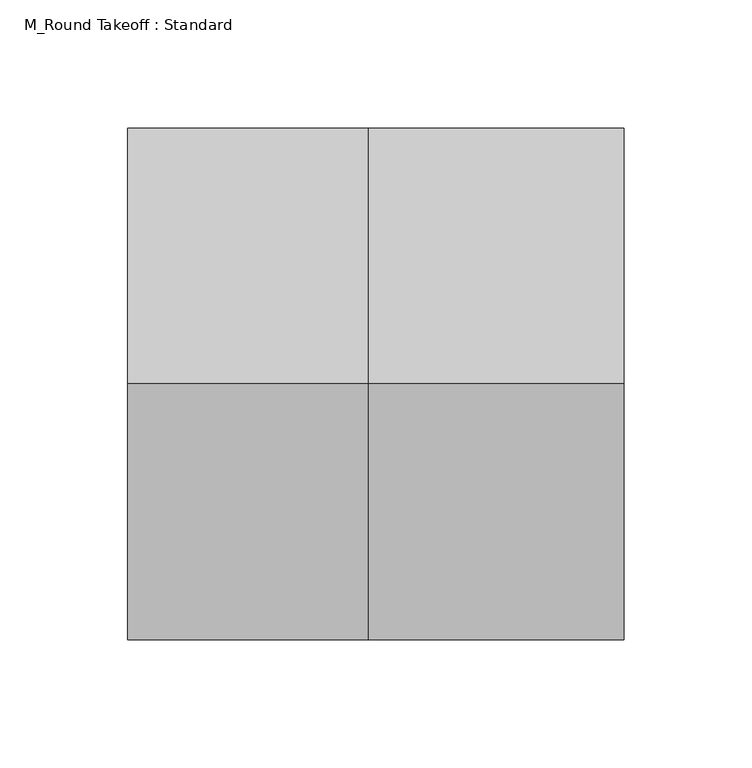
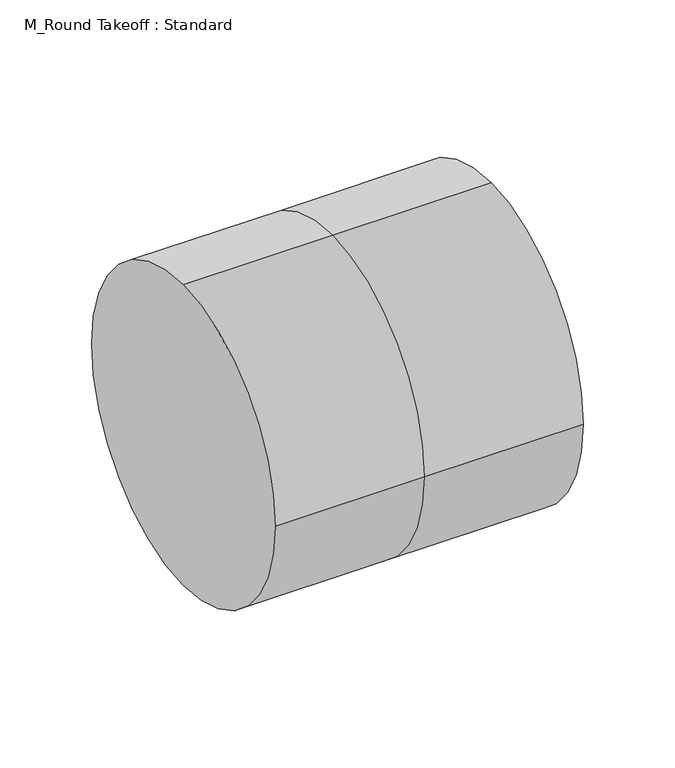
"""IFC4 building model written with IfcOpenShell, lengths in millimetres: duct fitting geometry, M_Round Takeoff : Standard."""

from ifc_helpers import new_model, si_unit, frame, origin, place, context, project, spatial, circle_curve, source, transform, mapped, element, save
from ifc_brep_helpers import plane_surface, cylinder_surface, advanced_brep


def m_round_takeoff_standard_c62ca294(model_context):
    return source(origin(), model_context, "Body", "AdvancedBrep", [
        advanced_brep(
        [(-93.904, 0.0, 100.0), (-93.904, 100.0, 0.0), (-93.904, 0.0, -100.0), (-93.904, -100.0, 0.0), (0.0, -100.0, 0.0), (0.0, 0.0, 100.0), (0.0, 0.0, -100.0), (0.0, 100.0, 0.0), (100.0, 0.0, 100.0), (100.0, -100.0, 0.0), (100.0, 0.0, -100.0), (100.0, 100.0, 0.0)],
        [
            (0, 1, circle_curve(frame((-93.904, 0.0, 0.0), z_axis=(-1.0, 0.0, 0.0), x_axis=(0.0, -1.0, 0.0)), 100.0)),
            (1, 2, circle_curve(frame((-93.904, 0.0, 0.0), z_axis=(-1.0, 0.0, 0.0), x_axis=(0.0, -1.0, 0.0)), 100.0)),
            (2, 3, circle_curve(frame((-93.904, 0.0, 0.0), z_axis=(-1.0, 0.0, 0.0), x_axis=(0.0, -1.0, 0.0)), 100.0)),
            (3, 0, circle_curve(frame((-93.904, 0.0, 0.0), z_axis=(-1.0, 0.0, 0.0), x_axis=(0.0, -1.0, 0.0)), 100.0)),
            (3, 4),
            (4, 5, circle_curve(frame((0.0, 0.0, 0.0), z_axis=(-1.0, 0.0, 0.0), x_axis=(0.0, -1.0, 0.0)), 100.0)),
            (5, 0),
            (2, 6),
            (6, 4, circle_curve(frame((0.0, 0.0, 0.0), z_axis=(-1.0, 0.0, 0.0), x_axis=(0.0, -1.0, 0.0)), 100.0)),
            (1, 7),
            (7, 6, circle_curve(frame((0.0, 0.0, 0.0), z_axis=(-1.0, 0.0, 0.0), x_axis=(0.0, -1.0, 0.0)), 100.0)),
            (5, 7, circle_curve(frame((0.0, 0.0, 0.0), z_axis=(-1.0, 0.0, 0.0), x_axis=(0.0, -1.0, 0.0)), 100.0)),
            (8, 9, circle_curve(frame((100.0, 0.0, 0.0), z_axis=(1.0, 0.0, 0.0), x_axis=(0.0, -1.0, 0.0)), 100.0)),
            (9, 10, circle_curve(frame((100.0, 0.0, 0.0), z_axis=(1.0, 0.0, 0.0), x_axis=(0.0, -1.0, 0.0)), 100.0)),
            (10, 11, circle_curve(frame((100.0, 0.0, 0.0), z_axis=(1.0, 0.0, 0.0), x_axis=(0.0, -1.0, 0.0)), 100.0)),
            (11, 8, circle_curve(frame((100.0, 0.0, 0.0), z_axis=(1.0, 0.0, 0.0), x_axis=(0.0, -1.0, 0.0)), 100.0)),
            (8, 5),
            (4, 9),
            (6, 10),
            (7, 11),
        ],
        [
            plane_surface(frame((-93.904, 0.0, 0.0), z_axis=(-1.0, 0.0, 0.0), x_axis=(0.0, 0.0, 1.0))),
            cylinder_surface(frame((-93.904, 0.0, 0.0), z_axis=(-1.0, 0.0, 0.0), x_axis=(0.0, -1.0, 0.0)), 100.0),
            plane_surface(frame((100.0, 0.0, 0.0), z_axis=(1.0, 0.0, 0.0), x_axis=(0.0, 0.0, 1.0))),
            cylinder_surface(frame((0.0, 0.0, 0.0), z_axis=(-1.0, 0.0, 0.0), x_axis=(0.0, -1.0, 0.0)), 100.0),
        ],
        [
            (0, [[1, 2, 3, 4]]),
            (1, [[5, 6, 7, -4]]),
            (1, [[8, 9, -5, -3]]),
            (1, [[10, 11, -8, -2]]),
            (1, [[-7, 12, -10, -1]]),
            (2, [[13, 14, 15, 16]]),
            (3, [[17, -6, 18, -13]]),
            (3, [[-18, -9, 19, -14]]),
            (3, [[-19, -11, 20, -15]]),
            (3, [[-20, -12, -17, -16]]),
        ],
    ),
        advanced_brep(
        [(100.0, 0.0, 100.0), (100.0, -100.0, 0.0), (100.0, 0.0, -100.0), (100.0, 100.0, 0.0), (0.0, 0.0, 100.0), (0.0, -100.0, 0.0), (0.0, 0.0, -100.0), (0.0, 100.0, 0.0), (-93.904, 0.0, 100.0), (-93.904, 100.0, 0.0), (-93.904, 0.0, -100.0), (-93.904, -100.0, 0.0)],
        [
            (0, 1, circle_curve(frame((100.0, 0.0, 0.0), z_axis=(1.0, 0.0, 0.0), x_axis=(0.0, -1.0, 0.0)), 100.0)),
            (1, 2, circle_curve(frame((100.0, 0.0, 0.0), z_axis=(1.0, 0.0, 0.0), x_axis=(0.0, -1.0, 0.0)), 100.0)),
            (2, 3, circle_curve(frame((100.0, 0.0, 0.0), z_axis=(1.0, 0.0, 0.0), x_axis=(0.0, -1.0, 0.0)), 100.0)),
            (3, 0, circle_curve(frame((100.0, 0.0, 0.0), z_axis=(1.0, 0.0, 0.0), x_axis=(0.0, -1.0, 0.0)), 100.0)),
            (0, 4),
            (4, 5, circle_curve(frame((0.0, 0.0, 0.0), z_axis=(1.0, 0.0, 0.0), x_axis=(0.0, -1.0, 0.0)), 100.0)),
            (5, 1),
            (5, 6, circle_curve(frame((0.0, 0.0, 0.0), z_axis=(1.0, 0.0, 0.0), x_axis=(0.0, -1.0, 0.0)), 100.0)),
            (6, 2),
            (6, 7, circle_curve(frame((0.0, 0.0, 0.0), z_axis=(1.0, 0.0, 0.0), x_axis=(0.0, -1.0, 0.0)), 100.0)),
            (7, 3),
            (7, 4, circle_curve(frame((0.0, 0.0, 0.0), z_axis=(1.0, 0.0, 0.0), x_axis=(0.0, -1.0, 0.0)), 100.0)),
            (8, 9, circle_curve(frame((-93.904, 0.0, 0.0), z_axis=(-1.0, 0.0, 0.0), x_axis=(0.0, -1.0, 0.0)), 100.0)),
            (9, 10, circle_curve(frame((-93.904, 0.0, 0.0), z_axis=(-1.0, 0.0, 0.0), x_axis=(0.0, -1.0, 0.0)), 100.0)),
            (10, 11, circle_curve(frame((-93.904, 0.0, 0.0), z_axis=(-1.0, 0.0, 0.0), x_axis=(0.0, -1.0, 0.0)), 100.0)),
            (11, 8, circle_curve(frame((-93.904, 0.0, 0.0), z_axis=(-1.0, 0.0, 0.0), x_axis=(0.0, -1.0, 0.0)), 100.0)),
            (11, 5),
            (4, 8),
            (10, 6),
            (9, 7),
        ],
        [
            plane_surface(frame((100.0, 0.0, 0.0), z_axis=(1.0, 0.0, 0.0), x_axis=(0.0, 0.0, 1.0))),
            cylinder_surface(frame((0.0, 0.0, 0.0), z_axis=(-1.0, 0.0, 0.0), x_axis=(0.0, -1.0, 0.0)), 100.0),
            plane_surface(frame((-93.904, 0.0, 0.0), z_axis=(-1.0, 0.0, 0.0), x_axis=(0.0, 0.0, 1.0))),
            cylinder_surface(frame((-93.904, 0.0, 0.0), z_axis=(-1.0, 0.0, 0.0), x_axis=(0.0, -1.0, 0.0)), 100.0),
        ],
        [
            (0, [[1, 2, 3, 4]]),
            (1, [[5, 6, 7, -1]]),
            (1, [[-7, 8, 9, -2]]),
            (1, [[-9, 10, 11, -3]]),
            (1, [[-11, 12, -5, -4]]),
            (2, [[13, 14, 15, 16]]),
            (3, [[17, -6, 18, -16]]),
            (3, [[19, -8, -17, -15]]),
            (3, [[20, -10, -19, -14]]),
            (3, [[-18, -12, -20, -13]]),
        ],
    ),
        advanced_brep(
        [(-93.904, 0.0, 100.0), (-93.904, 100.0, 0.0), (-93.904, 0.0, -100.0), (-93.904, -100.0, 0.0), (0.0, -100.0, 0.0), (0.0, 0.0, 100.0), (0.0, 0.0, -100.0), (0.0, 100.0, 0.0), (100.0, 0.0, 100.0), (100.0, -100.0, 0.0), (100.0, 0.0, -100.0), (100.0, 100.0, 0.0)],
        [
            (0, 1, circle_curve(frame((-93.904, 0.0, 0.0), z_axis=(-1.0, 0.0, 0.0), x_axis=(0.0, -1.0, 0.0)), 100.0)),
            (1, 2, circle_curve(frame((-93.904, 0.0, 0.0), z_axis=(-1.0, 0.0, 0.0), x_axis=(0.0, -1.0, 0.0)), 100.0)),
            (2, 3, circle_curve(frame((-93.904, 0.0, 0.0), z_axis=(-1.0, 0.0, 0.0), x_axis=(0.0, -1.0, 0.0)), 100.0)),
            (3, 0, circle_curve(frame((-93.904, 0.0, 0.0), z_axis=(-1.0, 0.0, 0.0), x_axis=(0.0, -1.0, 0.0)), 100.0)),
            (3, 4),
            (4, 5, circle_curve(frame((0.0, 0.0, 0.0), z_axis=(-1.0, 0.0, 0.0), x_axis=(0.0, -1.0, 0.0)), 100.0)),
            (5, 0),
            (2, 6),
            (6, 4, circle_curve(frame((0.0, 0.0, 0.0), z_axis=(-1.0, 0.0, 0.0), x_axis=(0.0, -1.0, 0.0)), 100.0)),
            (1, 7),
            (7, 6, circle_curve(frame((0.0, 0.0, 0.0), z_axis=(-1.0, 0.0, 0.0), x_axis=(0.0, -1.0, 0.0)), 100.0)),
            (5, 7, circle_curve(frame((0.0, 0.0, 0.0), z_axis=(-1.0, 0.0, 0.0), x_axis=(0.0, -1.0, 0.0)), 100.0)),
            (8, 9, circle_curve(frame((100.0, 0.0, 0.0), z_axis=(1.0, 0.0, 0.0), x_axis=(0.0, -1.0, 0.0)), 100.0)),
            (9, 10, circle_curve(frame((100.0, 0.0, 0.0), z_axis=(1.0, 0.0, 0.0), x_axis=(0.0, -1.0, 0.0)), 100.0)),
            (10, 11, circle_curve(frame((100.0, 0.0, 0.0), z_axis=(1.0, 0.0, 0.0), x_axis=(0.0, -1.0, 0.0)), 100.0)),
            (11, 8, circle_curve(frame((100.0, 0.0, 0.0), z_axis=(1.0, 0.0, 0.0), x_axis=(0.0, -1.0, 0.0)), 100.0)),
            (8, 5),
            (4, 9),
            (6, 10),
            (7, 11),
        ],
        [
            plane_surface(frame((-93.904, 0.0, 0.0), z_axis=(-1.0, 0.0, 0.0), x_axis=(0.0, 0.0, 1.0))),
            cylinder_surface(frame((-93.904, 0.0, 0.0), z_axis=(-1.0, 0.0, 0.0), x_axis=(0.0, -1.0, 0.0)), 100.0),
            plane_surface(frame((100.0, 0.0, 0.0), z_axis=(1.0, 0.0, 0.0), x_axis=(0.0, 0.0, 1.0))),
            cylinder_surface(frame((0.0, 0.0, 0.0), z_axis=(-1.0, 0.0, 0.0), x_axis=(0.0, -1.0, 0.0)), 100.0),
        ],
        [
            (0, [[1, 2, 3, 4]]),
            (1, [[5, 6, 7, -4]]),
            (1, [[8, 9, -5, -3]]),
            (1, [[10, 11, -8, -2]]),
            (1, [[-7, 12, -10, -1]]),
            (2, [[13, 14, 15, 16]]),
            (3, [[17, -6, 18, -13]]),
            (3, [[-18, -9, 19, -14]]),
            (3, [[-19, -11, 20, -15]]),
            (3, [[-20, -12, -17, -16]]),
        ],
    ),
    ])


if __name__ == "__main__":
    model = new_model("IFC4")
    model_context = context("Model", 3, world=origin())
    ifc_project = project(units=[si_unit("LENGTHUNIT", "METRE", prefix="MILLI")], contexts=[model_context])
    site = spatial("IfcSite", under=ifc_project)
    building = spatial("IfcBuilding", under=site)
    placement = place(None, origin())
    m_round_takeoff_standard_shape = m_round_takeoff_standard_c62ca294(model_context)
    element("IfcDuctFitting", 1, ObjectType="M_Round Takeoff : Standard", at=placement, inside=building, context=model_context, shape_type="MappedRepresentation", body=[
        mapped(m_round_takeoff_standard_shape, transform((0.0, 0.0, 0.0), x_axis=(1.0, 0.0, 0.0), y_axis=(0.0, 1.0, 0.0), z_axis=(0.0, 0.0, 1.0))),
    ])
    save(model, "model.ifc")
